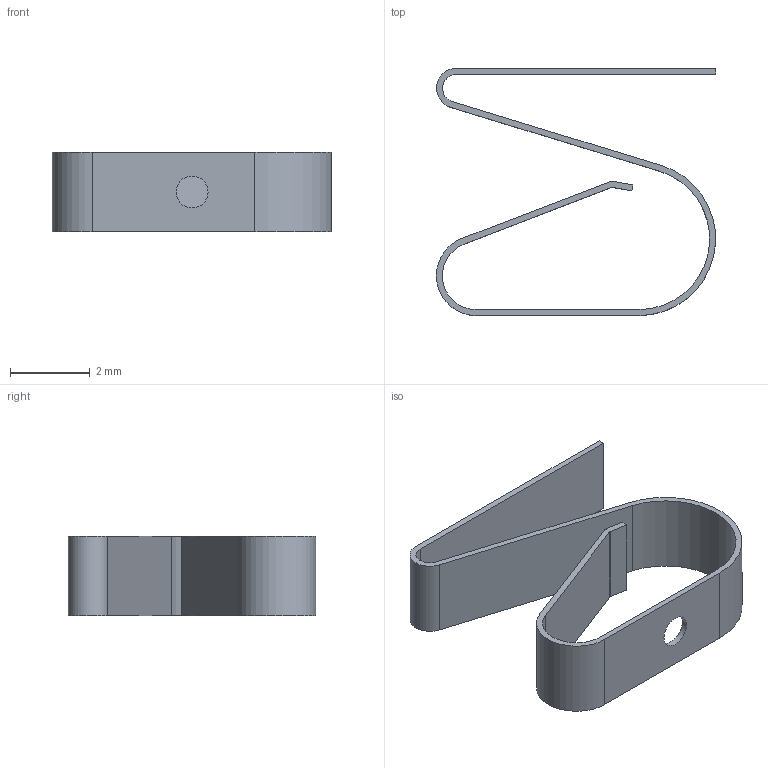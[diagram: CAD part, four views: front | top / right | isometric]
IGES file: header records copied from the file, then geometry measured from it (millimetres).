
Start section:  PTC IGES file: 5G2070062B.igs
Global section: file name: 5G2070062B.igs; native system: Creo Parametric by PTC Inc.; preprocessor: 2015200; author: jairo; organization: Unknown; date: 20180316.132154; units: millimetre
Bounding box: 7 x 6.2 x 2 mm (x, y, z)
Surface area: 127.3 mm2 (no closed solid volume)
Topology: 0 solids, 0 shells, 24 faces, 132 edges, 132 vertices
Faces by surface type: bspline 14, revolution 10
